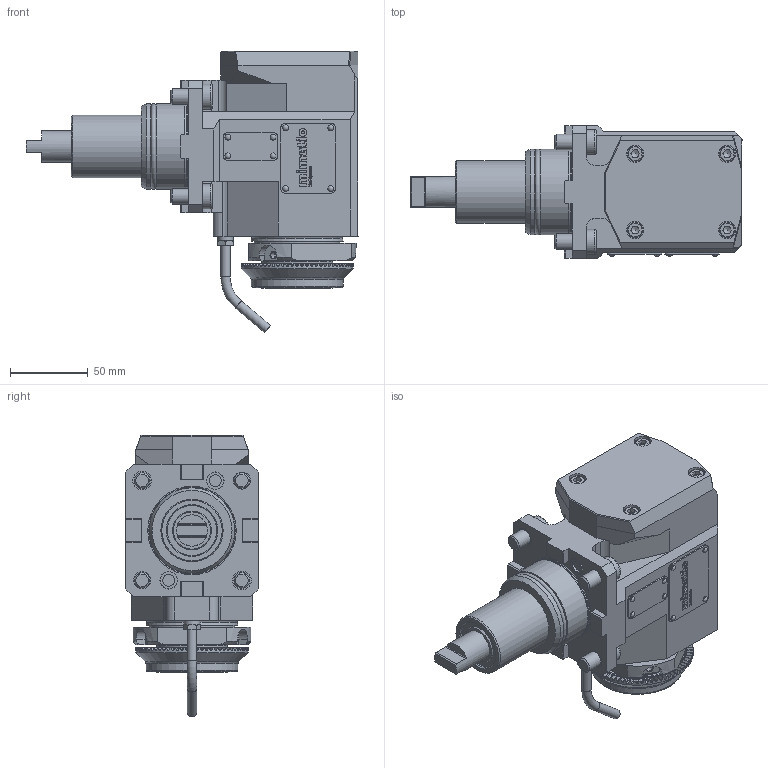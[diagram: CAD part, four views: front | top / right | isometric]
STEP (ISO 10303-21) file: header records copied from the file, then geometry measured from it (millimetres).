
FILE_DESCRIPTION(/* description */ (''),/* implementation_level */ '2;1');
FILE_NAME(/* name */ '196393',/* time_stamp */ '2020-05-25T08:27:12+02:00',/* author */ (''),/* organization */ (''),/* preprocessor_version */ 'ST-DEVELOPER v16.5',/* originating_system */ 'HiCAD 2017 2201.0 Build 268',/* authorisation */ '');
FILE_SCHEMA (('AUTOMOTIVE_DESIGN { 1 0 10303 214 1 1 1 1 }'));
Products named in the file (8): Root; Teil; GEWINDE; DIN 13-M12
Assembly tree (7 placements, depth 3):
  Root
    Teil
      GEWINDE
      GEWINDE
      GEWINDE
      GEWINDE
      DIN 13-M12
      DIN 13-M12
Bounding box: 213 x 85 x 180.37 mm (x, y, z)
Volume: 1075670 mm3; surface area: 110639.6 mm2
Topology: 7 solids, 15 shells, 1438 faces, 3808 edges, 2483 vertices
Faces by surface type: plane 796, cylinder 296, cone 191, torus 103, bspline 38, sphere 14
Full cylindrical faces by diameter (mm): 2 x8, 2.2 x8, 4 x5, 5 x3, 6 x2, 6.5 x3, 7.65 x2, 8.16 x8, 10 x14, 10.2 x2, 11 x6, 11.01 x2, 11.1 x2, 12 x4, 16 x4, 18 x1, 20 x1, 32 x1, 36 x1, 40 x1, 45.5 x1, 46.01 x1, 49.9 x2, 54.5 x1, 54.9 x2, 55 x1, 55.4 x1, 59 x1, 72 x1
Entity records: 85475 total; most frequent: CARTESIAN_POINT 12378, PRESENTATION_STYLE_ASSIGNMENT 7575, OVER_RIDING_STYLED_ITEM 7568, DIRECTION 7305, COLOUR_RGB 7182, DRAUGHTING_PRE_DEFINED_CURVE_FONT 7170, CURVE_STYLE 7170, ORIENTED_EDGE 7170
